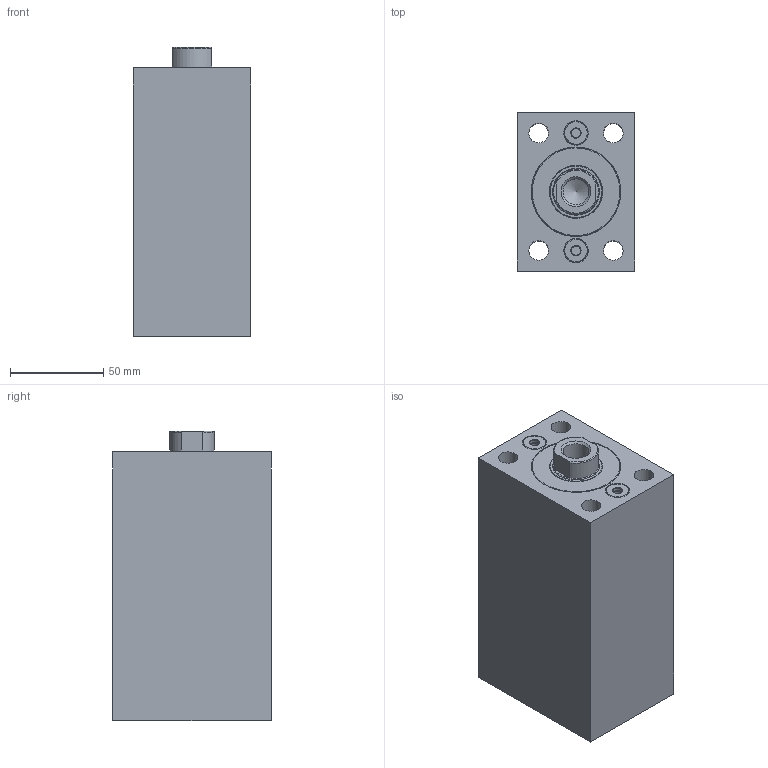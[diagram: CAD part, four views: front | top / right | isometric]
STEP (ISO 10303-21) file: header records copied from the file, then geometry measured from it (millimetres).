
FILE_DESCRIPTION( ( 'STEP AP203' ), '1' );
FILE_NAME( 'C:/Users/SAYKO.ltd/Desktop/SBZ100/07/SBZ100-40/SBZ100.40__FORM_07_STROKE_70__H2_49_POS_0_.stp', ' ', ( ' ' ), ( ' ' ), 'PSStep 15.0.47', 'PARTsolutions', ' ' );
FILE_SCHEMA( ( 'CONFIG_CONTROL_DESIGN' ) );
Length unit declared in the file: millimetre
Products named in the file (5): SBZ100.40  FORM=07 STROKE=70 (H2=49 POS=0); HI_SBZ10040  FORM=07 STROKE=70 H2=49 -C; HI_SBZ10040  FORM=07 STROKE=70-R; HI_SBZ100.40-C; HI_SBZ100.40-S
Assembly tree (4 placements, depth 2):
  SBZ100.40  FORM=07 STROKE=70 (H2=49 POS=0)
    HI_SBZ10040  FORM=07 STROKE=70 H2=49 -C
    HI_SBZ10040  FORM=07 STROKE=70-R
    HI_SBZ100.40-C
    HI_SBZ100.40-S
Bounding box: 63 x 85 x 155 mm (x, y, z)
Volume: 657711.2 mm3; surface area: 120840.7 mm2
Topology: 4 solids, 4 shells, 74 faces, 136 edges, 87 vertices
Faces by surface type: plane 33, cylinder 28, cone 10, torus 3
Full cylindrical faces by diameter (mm): 5 x4, 10.5 x4, 13 x2, 13.835 x1, 18 x4, 25 x4, 28.5 x1, 33 x2, 40 x2, 48 x2
Entity records: 3979 total; most frequent: CARTESIAN_POINT 2649, ORIENTED_EDGE 188, DIRECTION 178, EDGE_LOOP 140, FACE_OUTER_BOUND 101, EDGE_CURVE 94, VERTEX_POINT 83, AXIS2_PLACEMENT_3D 81
